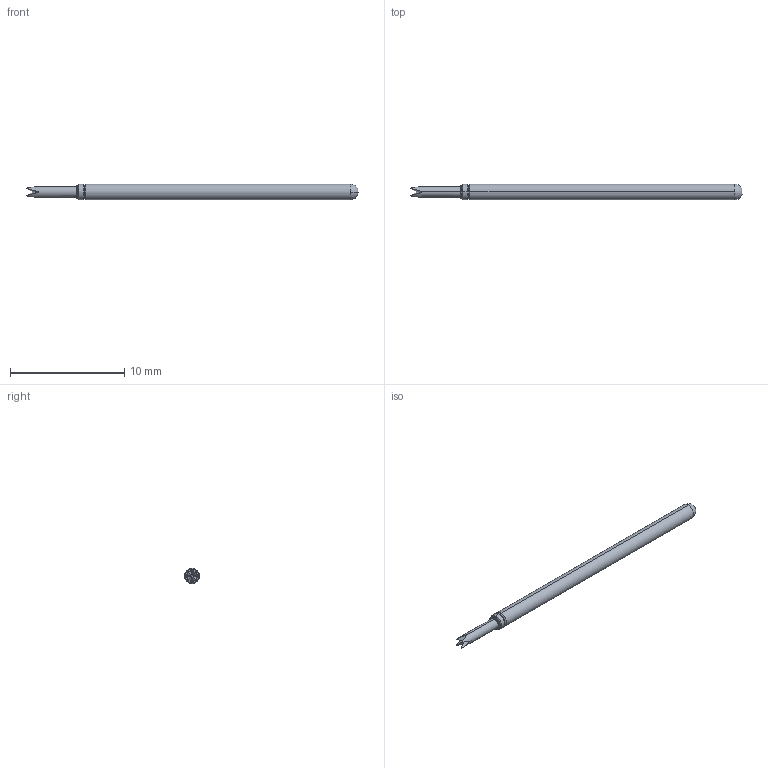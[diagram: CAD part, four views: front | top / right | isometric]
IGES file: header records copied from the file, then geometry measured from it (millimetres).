
Start section: SolidWorks IGES file using analytic representation for surfaces
Global section: file name: Z:\probe solid model mockups\Solidworks models\LTP-25\LTP-25L36 RECD.IGS; native system: SolidWorks 2006 by SolidWorks Corporation; preprocessor: SolidWorks 2006 by SolidWorks Corporation; author: tsakatani; date: 071214.143313; units: inch
Bounding box: 29.08 x 1.37 x 1.37 mm (x, y, z)
Surface area: 120.5 mm2 (no closed solid volume)
Topology: 0 solids, 0 shells, 26 faces, 174 edges, 174 vertices
Faces by surface type: bspline 14, revolution 12
